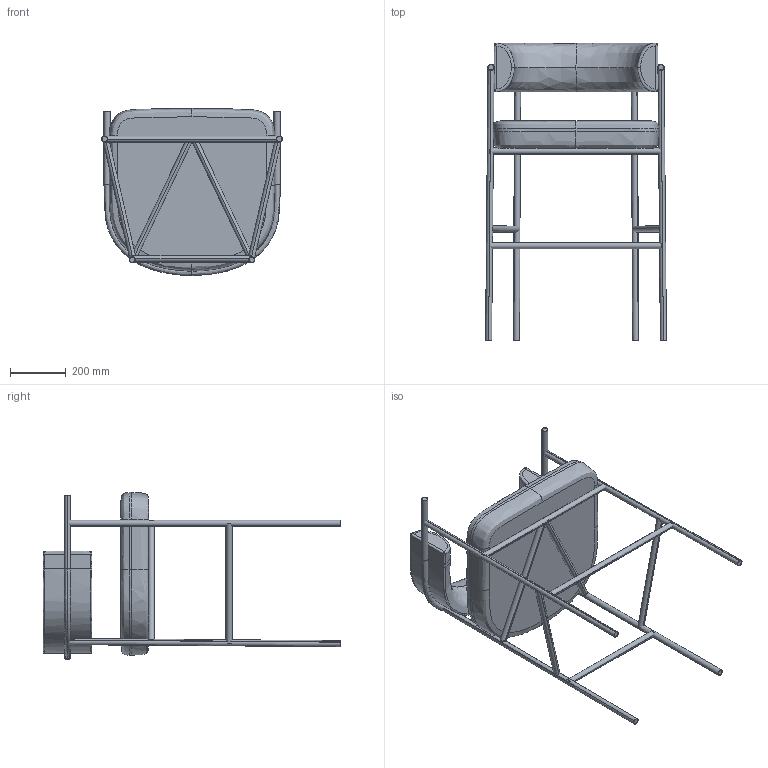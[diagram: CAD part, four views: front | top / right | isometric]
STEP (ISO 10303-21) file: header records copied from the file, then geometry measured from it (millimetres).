
FILE_DESCRIPTION (( 'STEP AP214' ), '1' );
FILE_NAME ('Karmstol B - sh78.STEP', '2025-06-18T13:44:33', ( '' ), ( '' ), 'SwSTEP 2.0', 'SolidWorks 2020', '' );
FILE_SCHEMA (( 'AUTOMOTIVE_DESIGN' ));
Length unit declared in the file: millimetre
Products named in the file (10): mod-wasp_underrede ryggbåge_Soft rygg stol B; mod-wasp_underrede delar_Soft sits; mod-wasp_underrede delar_Tv„rstag bak nere; mod-6281OB - WASP underrede_22 mm sh78; mod-wasp_underrede delar_Tv„rstag h”ger 22; mod-wasp_underrede delar_Ben 22 (h78); mod-wasp_underrede delar_Tv„rstag v„nster 22; mod-wasp_underrede delar_Tv„rstag sidor nere; mod-wasp_underrede delar_Tv„rstag fram 22; Karmstol B - sh78
Assembly tree (14 placements, depth 3):
  Karmstol B - sh78
    mod-6281OB - WASP underrede_22 mm sh78
      mod-wasp_underrede ryggbåge_Soft rygg stol B
      mod-wasp_underrede delar_Ben 22 (h78)  x4
      mod-wasp_underrede delar_Tv„rstag fram 22  x2
      mod-wasp_underrede delar_Tv„rstag v„nster 22
      mod-wasp_underrede delar_Tv„rstag h”ger 22
      mod-wasp_underrede delar_Tv„rstag bak nere
      mod-wasp_underrede delar_Tv„rstag sidor nere  x2
    mod-wasp_underrede delar_Soft sits
Bounding box: 650.33 x 1069.74 x 600.6 mm (x, y, z)
Volume: 42417663.9 mm3; surface area: 2413965.2 mm2
Topology: 14 solids, 15 shells, 150 faces, 292 edges, 173 vertices
Faces by surface type: bspline 60, cylinder 54, plane 36
Entity records: 13212 total; most frequent: CARTESIAN_POINT 10825, ORIENTED_EDGE 458, DIRECTION 315, EDGE_CURVE 229, AXIS2_PLACEMENT_3D 135, VERTEX_POINT 133, EDGE_LOOP 128, ADVANCED_FACE 117
